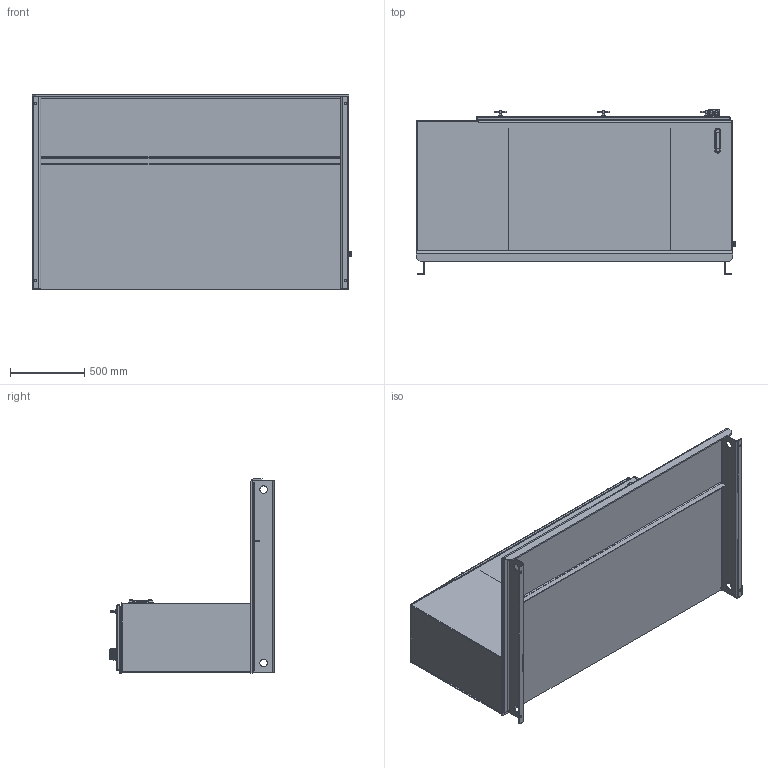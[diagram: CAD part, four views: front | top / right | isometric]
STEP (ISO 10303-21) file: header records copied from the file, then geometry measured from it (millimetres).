
FILE_DESCRIPTION (( 'STEP AP203' ), '1' );
FILE_NAME ('RLP200-PHT.STEP', '2015-01-07T19:06:51', ( '' ), ( '' ), 'SwSTEP 2.0', 'SolidWorks 2014', '' );
FILE_SCHEMA (( 'CONFIG_CONTROL_DESIGN' ));
Length unit declared in the file: inch
Products named in the file (1): RLP200-PHT
Bounding box: 2152.65 x 1118.2 x 1311.28 mm (x, y, z)
Volume: 59941099.2 mm3; surface area: 20741735.4 mm2
Topology: 61 solids, 239 shells, 3118 faces, 6839 edges, 4152 vertices
Faces by surface type: plane 1306, cylinder 1139, torus 398, bspline 136, cone 84, sphere 55
Entity records: 93476 total; most frequent: CARTESIAN_POINT 24533, DIRECTION 15211, ORIENTED_EDGE 13558, EDGE_CURVE 6779, AXIS2_PLACEMENT_3D 5918, VERTEX_POINT 4134, VECTOR 3375, LINE 3375
